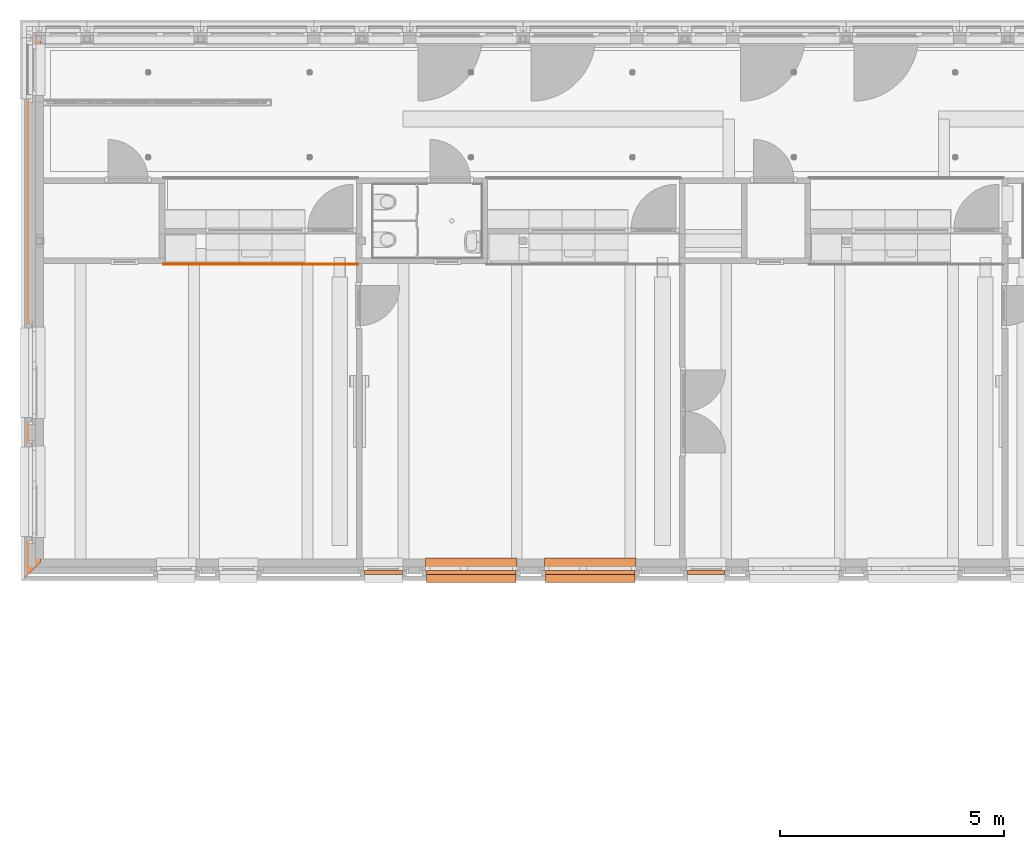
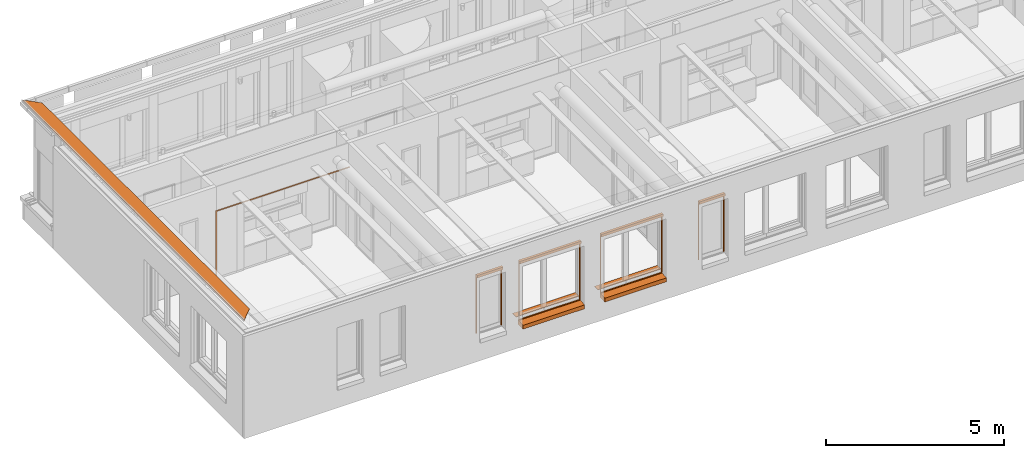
# One storey, part 109 of 128: 10 proxies.
"""IFC2X3 building model written with IfcOpenShell, lengths in millimetres."""

from ifc_helpers import new_model, entity, si_unit, converted_unit, derived_unit, direction, frame, frame_2d, origin, origin_2d_with_axis, place, context, subcontext, project, spatial, polyline, circle_curve, parameter, trimmed, segment, composite_curve, rectangle, outline, extrude, source, transform, mapped, material, material_list, type_object, type_shapes, element, save


model = new_model("IFC2X3")

# Units and contexts
model_context = context("Model", 3, precision=0.01, world=origin(), true_north=direction((6.123031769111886e-17, 1.0)))
body_context = subcontext(model_context, "Body", "Model", "MODEL_VIEW")
ifc_project = project(units=[si_unit("LENGTHUNIT", "METRE", prefix="MILLI"), si_unit("AREAUNIT", "SQUARE_METRE"), si_unit("VOLUMEUNIT", "CUBIC_METRE"), converted_unit("PLANEANGLEUNIT", "DEGREE", entity("IfcRatioMeasure", 0.017453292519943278), si_unit("PLANEANGLEUNIT", "RADIAN"), dimensions=[0, 0, 0, 0, 0, 0, 0]), si_unit("MASSUNIT", "GRAM", prefix="KILO"), derived_unit("MASSDENSITYUNIT", [(si_unit("MASSUNIT", "GRAM", prefix="KILO"), 1), (si_unit("LENGTHUNIT", "METRE"), -3)]), derived_unit("IONCONCENTRATIONUNIT", [(si_unit("MASSUNIT", "GRAM", prefix="KILO"), 1), (si_unit("LENGTHUNIT", "METRE"), -3)]), derived_unit("MOMENTOFINERTIAUNIT", [(si_unit("LENGTHUNIT", "METRE"), 4)]), si_unit("TIMEUNIT", "SECOND"), si_unit("FREQUENCYUNIT", "HERTZ"), si_unit("THERMODYNAMICTEMPERATUREUNIT", "DEGREE_CELSIUS"), derived_unit("THERMALTRANSMITTANCEUNIT", [(si_unit("MASSUNIT", "GRAM", prefix="KILO"), 1), (si_unit("THERMODYNAMICTEMPERATUREUNIT", "KELVIN"), -1), (si_unit("TIMEUNIT", "SECOND"), -3)]), derived_unit("THERMALCONDUCTANCEUNIT", [(si_unit("MASSUNIT", "GRAM", prefix="KILO"), 1), (si_unit("THERMODYNAMICTEMPERATUREUNIT", "KELVIN"), -1), (si_unit("TIMEUNIT", "SECOND"), -3), (si_unit("LENGTHUNIT", "METRE"), 1)]), derived_unit("VOLUMETRICFLOWRATEUNIT", [(si_unit("LENGTHUNIT", "METRE"), 3), (si_unit("TIMEUNIT", "SECOND"), -1)]), derived_unit("MASSFLOWRATEUNIT", [(si_unit("MASSUNIT", "GRAM", prefix="KILO"), 1), (si_unit("TIMEUNIT", "SECOND"), -1)]), derived_unit("ROTATIONALFREQUENCYUNIT", [(si_unit("TIMEUNIT", "SECOND"), -1)]), si_unit("ELECTRICCURRENTUNIT", "AMPERE"), si_unit("ELECTRICVOLTAGEUNIT", "VOLT"), si_unit("POWERUNIT", "WATT"), si_unit("FORCEUNIT", "NEWTON", prefix="KILO"), si_unit("ILLUMINANCEUNIT", "LUX"), si_unit("LUMINOUSFLUXUNIT", "LUMEN"), si_unit("LUMINOUSINTENSITYUNIT", "CANDELA"), derived_unit("USERDEFINED", [(si_unit("MASSUNIT", "GRAM", prefix="KILO"), -1), (si_unit("LENGTHUNIT", "METRE"), -2), (si_unit("TIMEUNIT", "SECOND"), 3), (si_unit("LUMINOUSFLUXUNIT", "LUMEN"), 1)]), derived_unit("USERDEFINED", [(si_unit("MASSUNIT", "GRAM", prefix="KILO"), 1), (si_unit("TIMEUNIT", "SECOND"), -3), (si_unit("LENGTHUNIT", "METRE"), 3), (si_unit("ELECTRICCURRENTUNIT", "AMPERE"), -2)]), derived_unit("SOUNDPOWERUNIT", [(si_unit("MASSUNIT", "GRAM", prefix="KILO"), 1), (si_unit("TIMEUNIT", "SECOND"), -3), (si_unit("LENGTHUNIT", "METRE"), 2)]), derived_unit("SOUNDPRESSUREUNIT", [(si_unit("MASSUNIT", "GRAM", prefix="KILO"), 1), (si_unit("LENGTHUNIT", "METRE"), -1), (si_unit("TIMEUNIT", "SECOND"), -2)]), derived_unit("LINEARVELOCITYUNIT", [(si_unit("LENGTHUNIT", "METRE"), 1), (si_unit("TIMEUNIT", "SECOND"), -1)]), si_unit("PRESSUREUNIT", "PASCAL"), derived_unit("USERDEFINED", [(si_unit("MASSUNIT", "GRAM", prefix="KILO"), 1), (si_unit("LENGTHUNIT", "METRE"), -2), (si_unit("TIMEUNIT", "SECOND"), -2)]), derived_unit("LINEARFORCEUNIT", [(si_unit("MASSUNIT", "GRAM", prefix="KILO"), 1), (si_unit("TIMEUNIT", "SECOND"), -2)]), derived_unit("PLANARFORCEUNIT", [(si_unit("MASSUNIT", "GRAM", prefix="KILO"), 1), (si_unit("LENGTHUNIT", "METRE"), -1), (si_unit("TIMEUNIT", "SECOND"), -2)]), derived_unit("SPECIFICHEATCAPACITYUNIT", [(si_unit("THERMODYNAMICTEMPERATUREUNIT", "KELVIN"), -1), (si_unit("LENGTHUNIT", "METRE"), 2), (si_unit("TIMEUNIT", "SECOND"), -2)]), derived_unit("HEATINGVALUEUNIT", [(si_unit("LENGTHUNIT", "METRE"), 2), (si_unit("TIMEUNIT", "SECOND"), -2)]), derived_unit("VAPORPERMEABILITYUNIT", [(si_unit("LENGTHUNIT", "METRE"), -1), (si_unit("TIMEUNIT", "SECOND"), 1)]), derived_unit("DYNAMICVISCOSITYUNIT", [(si_unit("MASSUNIT", "GRAM", prefix="KILO"), 1), (si_unit("TIMEUNIT", "SECOND"), -1), (si_unit("LENGTHUNIT", "METRE"), -1)]), derived_unit("THERMALEXPANSIONCOEFFICIENTUNIT", [(si_unit("THERMODYNAMICTEMPERATUREUNIT", "KELVIN"), -1)]), derived_unit("MODULUSOFELASTICITYUNIT", [(si_unit("MASSUNIT", "GRAM", prefix="KILO"), 1), (si_unit("LENGTHUNIT", "METRE"), -1), (si_unit("TIMEUNIT", "SECOND"), -2)]), derived_unit("ISOTHERMALMOISTURECAPACITYUNIT", [(si_unit("LENGTHUNIT", "METRE"), 3), (si_unit("MASSUNIT", "GRAM", prefix="KILO"), -1)]), derived_unit("MOISTUREDIFFUSIVITYUNIT", [(si_unit("TIMEUNIT", "SECOND"), -1), (si_unit("LENGTHUNIT", "METRE"), 2)])], contexts=[model_context])

# Site, building, storey
site_placement = place(None, frame((0.0, 300.0, 0.0)))
site = spatial("IfcSite", under=ifc_project, at=site_placement, Name="<Kadastrale nummers>", CompositionType="ELEMENT")
building_placement = place(site_placement, origin())
building = spatial("IfcBuilding", under=site, at=building_placement, CompositionType="ELEMENT")
storey_placement = place(building_placement, frame((0.0, 0.0, 3560.0000331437)))
storey = spatial("IfcBuildingStorey", under=building, at=storey_placement, Name="01 eerste verdieping", CompositionType="ELEMENT", Elevation=3560.0000331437)

# Proxies
ifc_material_1 = material(Name="ISR_Beton_prefab")
building_element_proxy_type_1 = type_object("IfcBuildingElementProxyType", Name="29_DAT_Prefab betonnen waterslag kort:29_DAT_Prefab betonnen waterslag kort", PredefinedType="NOTDEFINED", material=ifc_material_1)
shared_shape_1 = source(origin(), body_context, "Body", "SweptSolid", [
    extrude(outline(composite_curve([segment(polyline([(-137.5, -95.62465990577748), (-107.49999999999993, -95.62465990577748)]), True, "CONTINUOUS"), segment(polyline([(-107.49999999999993, -95.62465990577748), (-107.49999999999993, -73.62465990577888)]), True, "CONTINUOUS"), segment(polyline([(-107.49999999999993, -73.62465990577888), (132.50000000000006, -52.627380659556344)]), True, "CONTINUOUS"), segment(polyline([(132.5, -52.627380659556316), (132.5, 79.37534009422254)]), True, "CONTINUOUS"), segment(polyline([(132.5, 79.37534009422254), (117.49999999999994, 79.37534009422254)]), True, "CONTINUOUS"), segment(trimmed(circle_curve(frame_2d((112.49999999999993, 79.37534009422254), x_axis=(1.0, 0.0)), 5.000000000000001), [parameter(179.99999999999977)], [parameter(359.9999999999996)], True, "PARAMETER"), False, "CONTINUOUS"), segment(polyline([(107.49999999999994, 79.37534009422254), (-137.5, 79.37534009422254)]), True, "CONTINUOUS"), segment(polyline([(-137.5, 79.37534009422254), (-137.5, -95.62465990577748)]), True, "CONTINUOUS")], self_intersect=False)), frame((0.0, 82.50000000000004, -95.62465990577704), z_axis=(1.0, 0.0, 0.0), x_axis=(0.0, -1.0, 0.0)), (0.0, 0.0, 1.0), 2000.0000000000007),
])
type_shapes(building_element_proxy_type_1, [shared_shape_1])
for number, where, name in (
    (1, (14290.0, 37735.0, 890.000001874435), "29_DAT_Prefab betonnen waterslag kort:29_DAT_Prefab betonnen waterslag kort"),
    (2, (11640.0, 37735.0, 890.0000018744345), "29_DAT_Prefab betonnen waterslag kort:29_DAT_Prefab betonnen waterslag kort"),
):
    element("IfcBuildingElementProxy", number, at=place(storey_placement, frame(where)), inside=storey, type_object=building_element_proxy_type_1, material=ifc_material_1, Name=name, ObjectType="29_DAT_Prefab betonnen waterslag kort:29_DAT_Prefab betonnen waterslag kort", context=body_context, shape_type="MappedRepresentation", body=[
        mapped(shared_shape_1, transform((0.0, 0.0, 0.0), scale=1.0)),
    ])
ifc_material_2 = material(Name="STAAL_RAL 7006")
ifc_material_3 = material(Name="<Unnamed>")
ifc_material_list = material_list([ifc_material_2, ifc_material_3])
building_element_proxy_type_2 = type_object("IfcBuildingElementProxyType", Name="31_DAT_Screen_zonwering_bak85:31_DAT_Screen_zonwering_bak85", PredefinedType="NOTDEFINED", material=ifc_material_list)
shared_shape_2 = source(origin(), body_context, "Body", "SweptSolid", [
    extrude(outline(polyline([(-53.573897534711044, -60.698648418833), (27.826102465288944, -60.698648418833), (27.826102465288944, 17.501351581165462), (24.626102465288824, 17.501351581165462), (24.626102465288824, 22.501351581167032), (1.1216926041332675, 22.501351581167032), (1.1216926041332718, 20.695945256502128), (-53.573897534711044, 20.695945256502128), (-53.573897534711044, -60.698648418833)])), frame((838.0, 29.62610246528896, 2772.501351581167), z_axis=(1.0, 0.0, 0.0), x_axis=(0.0, -1.0, 0.0)), (0.0, 0.0, 1.0), 1.9999999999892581),
    extrude(outline(polyline([(-51.082598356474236, -55.832432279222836), (33.91740164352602, -55.832432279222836), (33.91740164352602, 29.167567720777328), (28.91740164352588, 29.167567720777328), (28.91740164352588, 24.16756772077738), (32.117401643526, 24.16756772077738), (32.117401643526, -54.032432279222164), (-49.28259835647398, -54.032432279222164), (-49.28259835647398, 27.362161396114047), (5.41299178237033, 27.362161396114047), (5.41299178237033, 29.167567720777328), (-51.082598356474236, 29.167567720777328), (-51.082598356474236, -55.832432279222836)])), frame((0.0, 33.91740164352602, 2779.1675677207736), z_axis=(1.0, 0.0, 0.0), x_axis=(0.0, -1.0, 0.0)), (0.0, 0.0, 1.0), 839.9999999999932),
    extrude(outline(polyline([(-53.573897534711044, -60.698648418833), (27.826102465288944, -60.698648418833), (27.826102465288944, 17.501351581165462), (24.626102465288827, 17.501351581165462), (24.626102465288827, 22.501351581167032), (1.1216926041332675, 22.501351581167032), (1.1216926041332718, 20.695945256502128), (-53.573897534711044, 20.695945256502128), (-53.573897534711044, -60.698648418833)])), frame((0.0, 29.62610246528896, 2772.501351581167), z_axis=(1.0, 0.0, 0.0), x_axis=(0.0, -1.0, 0.0)), (0.0, 0.0, 1.0), 1.999999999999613),
    extrude(rectangle(XDim=1.163311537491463, YDim=800.0000000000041, at=frame_2d((2.1094237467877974e-15, 0.0), x_axis=(1.0, 0.0))), frame((420.0, 20.03729323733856, 2750.0), z_axis=(0.0, 0.0, 1.0), x_axis=(0.0, -1.0, 0.0)), (0.0, 0.0, 1.0), 47.3934410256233),
    extrude(outline(composite_curve([segment(trimmed(circle_curve(frame_2d((21.523758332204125, 7.502327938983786), x_axis=(1.0, 0.0)), 1.5000000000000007), [parameter(6.615553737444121e-13)], [parameter(90.00000000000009)], True, "PARAMETER"), True, "CONTINUOUS"), segment(polyline([(21.523758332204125, 9.00232793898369), (-8.97624166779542, 9.00232793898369)]), True, "CONTINUOUS"), segment(trimmed(circle_curve(frame_2d((-8.97624166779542, 6.00232793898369), x_axis=(1.0, 0.0)), 3.0), [parameter(90.00000000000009)], [parameter(172.8445490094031)], True, "PARAMETER"), True, "CONTINUOUS"), segment(polyline([(-11.952877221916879, 6.376013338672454), (-12.470504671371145, 2.2367466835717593)]), True, "CONTINUOUS"), segment(trimmed(circle_curve(frame_2d((-11.733933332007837, 2.1446362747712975), x_axis=(1.0, 0.0)), 0.7423083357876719), [parameter(172.87199730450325)], [parameter(320.7928857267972)], True, "PARAMETER"), True, "CONTINUOUS"), segment(trimmed(circle_curve(frame_2d((-8.97624166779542, 0.002327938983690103), x_axis=(1.0, 0.0)), 2.75), [parameter(218.21030001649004)], [parameter(142.52672013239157)], True, "PARAMETER"), False, "CONTINUOUS"), segment(trimmed(circle_curve(frame_2d((-11.733933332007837, -2.1399803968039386), x_axis=(1.0, 0.0)), 0.7423083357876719), [parameter(36.476465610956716)], [parameter(187.12800269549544)], True, "PARAMETER"), True, "CONTINUOUS"), segment(polyline([(-12.470504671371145, -2.2320908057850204), (-11.95287722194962, -6.3713574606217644)]), True, "CONTINUOUS"), segment(trimmed(circle_curve(frame_2d((-8.97624166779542, -5.9976720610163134), x_axis=(1.0, 0.0)), 3.0), [parameter(187.15545099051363)], [parameter(269.9999999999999)], True, "PARAMETER"), True, "CONTINUOUS"), segment(polyline([(-8.97624166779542, -8.997672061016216), (21.523758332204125, -8.997672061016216)]), True, "CONTINUOUS"), segment(trimmed(circle_curve(frame_2d((21.523758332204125, -7.497672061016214), x_axis=(1.0, 0.0)), 1.4999999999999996), [parameter(269.9999999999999)], [parameter(7.124442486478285e-13)], True, "PARAMETER"), True, "CONTINUOUS"), segment(polyline([(23.02375833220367, -7.4976720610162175), (23.02375833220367, 7.50232793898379)]), True, "CONTINUOUS")], self_intersect=False)), frame((20.0, 19.99767206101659, 2790.417199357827), z_axis=(1.0, 0.0, 0.0), x_axis=(0.0, 0.0, -1.0)), (0.0, 0.0, 1.0), 800.0000000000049),
    extrude(outline(polyline([(-16.231574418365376, -14.638298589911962), (13.768425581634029, -14.638298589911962), (13.768425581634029, 15.36170141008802), (-6.2315744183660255, 15.36170141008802), (-6.2315744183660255, 10.361701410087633), (-4.769580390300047, 10.361701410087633), (-4.769580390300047, 13.866111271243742), (12.23272922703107, 13.866111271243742), (12.23272922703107, -4.579546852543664), (-4.769580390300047, -4.579546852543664), (-4.769580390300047, -1.1166850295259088), (-6.231574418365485, -1.1166850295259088), (-6.231574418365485, -6.116685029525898), (12.232729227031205, -6.116685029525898), (12.232729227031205, -13.138298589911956), (-16.231574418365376, -13.138298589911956), (-16.231574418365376, -14.638298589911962)])), frame((826.2315744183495, 14.638298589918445, 810.0)), (0.0, 0.0, 1.0), 1940.0000000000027),
    extrude(outline(polyline([(-14.638298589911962, -16.231574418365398), (-13.13829858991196, -16.231574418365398), (-13.13829858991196, 12.232729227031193), (-6.116685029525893, 12.232729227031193), (-6.116685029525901, -6.231574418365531), (-1.116685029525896, -6.231574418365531), (-1.116685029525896, -4.769580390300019), (-4.579546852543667, -4.769580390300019), (-4.579546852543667, 12.2327292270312), (13.866111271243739, 12.2327292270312), (13.866111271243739, -4.769580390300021), (10.361701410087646, -4.769580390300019), (10.361701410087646, -6.231574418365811), (15.361701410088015, -6.231574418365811), (15.361701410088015, 13.76842558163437), (-14.638298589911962, 13.76842558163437), (-14.638298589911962, -16.231574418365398)])), frame((13.768425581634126, 14.638298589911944, 810.0), z_axis=(0.0, 0.0, 1.0), x_axis=(0.0, 1.0, 0.0)), (0.0, 0.0, 1.0), 1940.0000000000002),
])
type_shapes(building_element_proxy_type_2, [shared_shape_2])
for number, where, z_axis, x_axis, name in (
    (3, (11100.0, 37949.0, 90.00000187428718), (0.0, 0.0, 1.0), (-1.0, 0.0, 0.0), "31_DAT_Screen_zonwering_bak85:31_DAT_Screen_zonwering_bak85"),
    (4, (18300.0, 37949.0, 90.00000187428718), (0.0, 0.0, 1.0), (-1.0, 0.0, 0.0), "31_DAT_Screen_zonwering_bak85:31_DAT_Screen_zonwering_bak85"),
):
    element("IfcBuildingElementProxy", number, at=place(storey_placement, frame(where, z_axis=z_axis, x_axis=x_axis)), inside=storey, type_object=building_element_proxy_type_2, material=ifc_material_list, Name=name, ObjectType="31_DAT_Screen_zonwering_bak85:31_DAT_Screen_zonwering_bak85", context=body_context, shape_type="MappedRepresentation", body=[
        mapped(shared_shape_2, transform((0.0, 0.0, 0.0), scale=1.0)),
    ])
building_element_proxy_type_3 = type_object("IfcBuildingElementProxyType", Name="31_DAT_Screen_zonwering_bak85:31_DAT_Screen_zonwering_bak85", PredefinedType="NOTDEFINED", material=ifc_material_list)
shared_shape_3 = source(origin(), body_context, "Body", "SweptSolid", [
    extrude(outline(polyline([(-60.69864841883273, -53.573897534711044), (20.695945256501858, -53.573897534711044), (20.695945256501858, 1.1216926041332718), (22.501351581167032, 1.1216926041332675), (22.501351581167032, 24.626102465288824), (17.501351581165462, 24.626102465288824), (17.501351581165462, 27.826102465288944), (-60.69864841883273, 27.826102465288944), (-60.69864841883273, -53.573897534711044)])), frame((1998.0, -29.62610246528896, 2422.501351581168), z_axis=(1.0, 0.0, 0.0), x_axis=(0.0, 0.0, -1.0)), (0.0, 0.0, 1.0), 1.9999999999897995),
    extrude(outline(polyline([(-55.83243227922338, -51.08259835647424), (29.167567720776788, -51.08259835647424), (29.167567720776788, 5.412991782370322), (27.362161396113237, 5.412991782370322), (27.362161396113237, -49.28259835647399), (-54.032432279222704, -49.28259835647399), (-54.032432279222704, 32.117401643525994), (24.16756772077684, 32.117401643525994), (24.16756772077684, 28.91740164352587), (29.167567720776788, 28.91740164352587), (29.167567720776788, 33.917401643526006), (-55.83243227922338, 33.917401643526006), (-55.83243227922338, -51.08259835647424)])), frame((0.0, -33.917401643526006, 2429.1675677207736), z_axis=(1.0, 0.0, 0.0), x_axis=(0.0, 0.0, -1.0)), (0.0, 0.0, 1.0), 1999.999999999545),
    extrude(outline(polyline([(-60.69864841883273, -53.573897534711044), (20.695945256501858, -53.573897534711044), (20.695945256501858, 1.1216926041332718), (22.501351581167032, 1.1216926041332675), (22.501351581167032, 24.626102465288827), (17.501351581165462, 24.626102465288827), (17.501351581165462, 27.826102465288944), (-60.69864841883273, 27.826102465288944), (-60.69864841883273, -53.573897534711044)])), frame((0.0, -29.62610246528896, 2422.501351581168), z_axis=(1.0, 0.0, 0.0), x_axis=(0.0, 0.0, -1.0)), (0.0, 0.0, 1.0), 1.999999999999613),
    extrude(rectangle(XDim=1959.9999999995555, YDim=1.163311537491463, at=frame_2d((0.0, -2.1094237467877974e-15), x_axis=(1.0, 0.0))), frame((1000.0, -20.037293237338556, 2382.3606486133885)), (0.0, 0.0, 1.0), 17.639351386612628),
    extrude(outline(composite_curve([segment(polyline([(-7.5023279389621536, -23.023758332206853), (7.4976720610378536, -23.023758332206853)]), True, "CONTINUOUS"), segment(trimmed(circle_curve(frame_2d((7.49767206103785, -21.523758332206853), x_axis=(0.0, -1.0)), 1.4999999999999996), [parameter(359.99999999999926)], [parameter(90.00000000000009)], True, "PARAMETER"), True, "CONTINUOUS"), segment(polyline([(8.997672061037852, -21.523758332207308), (8.997672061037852, 8.976241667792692)]), True, "CONTINUOUS"), segment(trimmed(circle_curve(frame_2d((5.9976720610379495, 8.976241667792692), x_axis=(0.0, -1.0)), 3.0), [parameter(90.00000000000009)], [parameter(172.84454900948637)], True, "PARAMETER"), True, "CONTINUOUS"), segment(polyline([(6.3713574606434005, 11.952877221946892), (2.2320908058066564, 12.470504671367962)]), True, "CONTINUOUS"), segment(trimmed(circle_curve(frame_2d((2.1399803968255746, 11.733933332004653), x_axis=(0.0, -1.0)), 0.7423083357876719), [parameter(172.87199730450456)], [parameter(323.5235343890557)], True, "PARAMETER"), True, "CONTINUOUS"), segment(trimmed(circle_curve(frame_2d((-0.002327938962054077, 8.976241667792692), x_axis=(0.0, -1.0)), 2.75), [parameter(217.47327986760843)], [parameter(141.78969998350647)], True, "PARAMETER"), False, "CONTINUOUS"), segment(trimmed(circle_curve(frame_2d((-2.1446362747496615, 11.733933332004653), x_axis=(0.0, -1.0)), 0.7423083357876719), [parameter(39.207114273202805)], [parameter(187.12800269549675)], True, "PARAMETER"), True, "CONTINUOUS"), segment(polyline([(-2.2367466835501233, 12.470504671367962), (-6.376013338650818, 11.952877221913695)]), True, "CONTINUOUS"), segment(trimmed(circle_curve(frame_2d((-6.002327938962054, 8.976241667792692), x_axis=(0.0, -1.0)), 3.0), [parameter(187.1554509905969)], [parameter(269.9999999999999)], True, "PARAMETER"), True, "CONTINUOUS"), segment(polyline([(-9.002327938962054, 8.976241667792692), (-9.002327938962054, -21.523758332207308)]), True, "CONTINUOUS"), segment(trimmed(circle_curve(frame_2d((-7.50232793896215, -21.523758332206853), x_axis=(0.0, -1.0)), 1.5000000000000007), [parameter(269.9999999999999)], [parameter(359.9999999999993)], True, "PARAMETER"), True, "CONTINUOUS")], self_intersect=False)), frame((20.0, -19.997672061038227, 2375.3844069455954), z_axis=(1.0, 0.0, 0.0), x_axis=(0.0, 1.0, 0.0)), (0.0, 0.0, 1.0), 1959.999999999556),
    extrude(outline(polyline([(-14.638298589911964, -16.231574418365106), (-13.138298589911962, -16.231574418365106), (-13.138298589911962, 12.23272922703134), (-6.116685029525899, 12.23272922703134), (-6.116685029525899, -6.231574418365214), (-1.116685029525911, -6.231574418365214), (-1.116685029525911, -4.769580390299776), (-4.579546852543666, -4.769580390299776), (-4.579546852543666, 12.23272922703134), (13.86611127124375, 12.23272922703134), (13.86611127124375, -4.769580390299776), (10.36170141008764, -4.769580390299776), (10.36170141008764, -6.2315744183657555), (15.36170141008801, -6.2315744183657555), (15.36170141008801, 13.7684255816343), (-14.638298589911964, 13.7684255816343), (-14.638298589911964, -16.231574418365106)])), frame((1986.2315744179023, -14.638298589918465, 450.0), z_axis=(0.0, 0.0, 1.0), x_axis=(0.0, -1.0, 0.0)), (0.0, 0.0, 1.0), 1950.0000000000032),
    extrude(outline(polyline([(-16.231574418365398, -14.638298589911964), (13.768425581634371, -14.638298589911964), (13.76842558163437, 15.361701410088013), (-6.231574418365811, 15.361701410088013), (-6.231574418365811, 10.361701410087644), (-4.769580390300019, 10.361701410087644), (-4.769580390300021, 13.866111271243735), (12.2327292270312, 13.866111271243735), (12.2327292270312, -4.57954685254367), (-4.769580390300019, -4.57954685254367), (-4.769580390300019, -1.1166850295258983), (-6.231574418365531, -1.1166850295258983), (-6.231574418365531, -6.116685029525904), (12.232729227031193, -6.116685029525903), (12.232729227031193, -13.138298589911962), (-16.231574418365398, -13.138298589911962), (-16.231574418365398, -14.638298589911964)])), frame((13.768425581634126, -14.638298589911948, 450.0), z_axis=(0.0, 0.0, 1.0), x_axis=(-1.0, 0.0, 0.0)), (0.0, 0.0, 1.0), 1950.0000000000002),
])
type_shapes(building_element_proxy_type_3, [shared_shape_3])
for number, where, name in (
    (5, (14290.0, 37948.99862327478, 440.0000018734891), "31_DAT_Screen_zonwering_bak85:31_DAT_Screen_zonwering_bak85"),
    (6, (11640.0, 37948.99862327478, 440.0000018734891), "31_DAT_Screen_zonwering_bak85:31_DAT_Screen_zonwering_bak85"),
):
    element("IfcBuildingElementProxy", number, at=place(storey_placement, frame(where)), inside=storey, type_object=building_element_proxy_type_3, material=ifc_material_list, Name=name, ObjectType="31_DAT_Screen_zonwering_bak85:31_DAT_Screen_zonwering_bak85", context=body_context, shape_type="MappedRepresentation", body=[
        mapped(shared_shape_3, transform((0.0, 0.0, 0.0), scale=1.0)),
    ])
ifc_material_4 = material(Name="e1_natuursteen")
building_element_proxy_type_4 = type_object("IfcBuildingElementProxyType", Name="NLRS_31_GM_WPB_vensterbank natuursteen -SH_gen_ASN:200x18", PredefinedType="USERDEFINED", material=ifc_material_4)
shared_shape_4 = source(origin(), body_context, "Body", "SweptSolid", [
    extrude(rectangle(XDim=200.0, YDim=2040.0000000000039, at=origin_2d_with_axis()), frame((0.0, -100.0, 0.0), z_axis=(0.0, 0.0, 1.0), x_axis=(0.0, -1.0, 0.0)), (0.0, 0.0, 1.0), 17.999999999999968),
])
type_shapes(building_element_proxy_type_4, [shared_shape_4])
for number, where, z_axis, x_axis, name in (
    (7, (15290.0, 38030.0, 920.0000018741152), (0.0, 0.0, 1.0), (-1.0, 0.0, 0.0), "NLRS_31_GM_WPB_vensterbank natuursteen -SH_gen_ASN:200x18"),
    (8, (12640.0, 38030.0, 920.0000018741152), (0.0, 0.0, 1.0), (-1.0, 0.0, 0.0), "NLRS_31_GM_WPB_vensterbank natuursteen -SH_gen_ASN:200x18"),
):
    element("IfcBuildingElementProxy", number, at=place(storey_placement, frame(where, z_axis=z_axis, x_axis=x_axis)), inside=storey, type_object=building_element_proxy_type_4, material=ifc_material_4, Name=name, ObjectType="NLRS_31_GM_WPB_vensterbank natuursteen -SH_gen_ASN:200x18", context=body_context, shape_type="MappedRepresentation", body=[
        mapped(shared_shape_4, transform((0.0, 0.0, 0.0), scale=1.0)),
    ])
ifc_material_5 = material(Name="ISR_Multiplex")
building_element_proxy_type_5 = type_object("IfcBuildingElementProxyType", Name="NLRS_42_GM_WBP_plaat:18x409", PredefinedType="NOTDEFINED", material=ifc_material_5)
shared_shape_5 = source(origin(), body_context, "Body", "SweptSolid", [
    extrude(outline(polyline([(-4546.343049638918, -4257.136376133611), (-3967.92970262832, -4257.136376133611), (4257.136376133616, 3967.929702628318), (4257.136376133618, 4546.343049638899), (-4546.343049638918, -4257.136376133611)])), frame((0.0, 204.50000000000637, 0.0), z_axis=(0.0, 0.0, 1.0), x_axis=(-0.7071067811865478, 0.7071067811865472, 0.0)), (0.0, 0.0, 1.0), 18.000000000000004),
])
type_shapes(building_element_proxy_type_5, [shared_shape_5])
proxy_1_placement = place(storey_placement, frame((2625.0, 43950.0, 4139.999966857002), z_axis=(0.0, 0.0, 1.0), x_axis=(0.0, -1.0, 0.0)))
element("IfcBuildingElementProxy", 9, at=proxy_1_placement, inside=storey, type_object=building_element_proxy_type_5, material=ifc_material_5, Name="NLRS_42_GM_WBP_plaat:18x409", ObjectType="NLRS_42_GM_WBP_plaat:18x409", context=body_context, shape_type="MappedRepresentation", body=[
    mapped(shared_shape_5, transform((0.0, 0.0, 0.0), scale=1.0)),
])

# Space
space_placement = place(storey_placement, origin())
space = spatial("IfcSpace", under=storey, at=space_placement, Name="1.01", CompositionType="ELEMENT", InteriorOrExteriorSpace="INTERNAL")

# Proxy
ifc_material_6 = material(Name="ISR_HPL Kleur hout")
building_element_proxy_type_6 = type_object("IfcBuildingElementProxyType", Name="82_DAT_Trimlat om element:82_DAT_Trimlat om element", PredefinedType="NOTDEFINED", material=ifc_material_6)
shared_shape_6 = source(origin(), body_context, "Body", "SweptSolid", [
    extrude(rectangle(XDim=19.999999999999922, YDim=34.99999999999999, at=origin_2d_with_axis()), frame((-17.500000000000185, -10.0, 0.0), z_axis=(0.0, 0.0, 1.0), x_axis=(0.0, 1.0, 0.0)), (0.0, 0.0, 1.0), 2400.000000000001),
    extrude(rectangle(XDim=19.99999999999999, YDim=4344.999999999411, at=frame_2d((0.0, -2.2737367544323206e-13), x_axis=(1.0, 0.0))), frame((2137.499999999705, -10.0, 2400.0), z_axis=(0.0, 0.0, 1.0), x_axis=(0.0, 1.0, 0.0)), (0.0, 0.0, 1.0), 34.99999999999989),
])
type_shapes(building_element_proxy_type_6, [shared_shape_6])
proxy_2_placement = place(space_placement, frame((5805.0, 44790.0, 90.00000187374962)))
element("IfcBuildingElementProxy", 10, at=proxy_2_placement, inside=space, type_object=building_element_proxy_type_6, material=ifc_material_6, Name="82_DAT_Trimlat om element:82_DAT_Trimlat om element", ObjectType="82_DAT_Trimlat om element:82_DAT_Trimlat om element", context=body_context, shape_type="MappedRepresentation", body=[
    mapped(shared_shape_6, transform((0.0, 0.0, 0.0), scale=1.0)),
])

save(model, "model.ifc")
